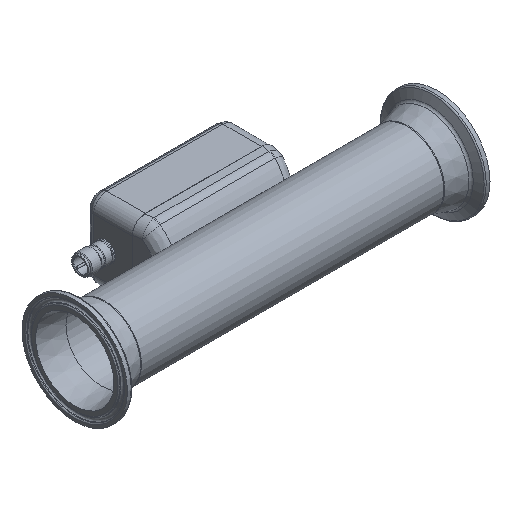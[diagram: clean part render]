
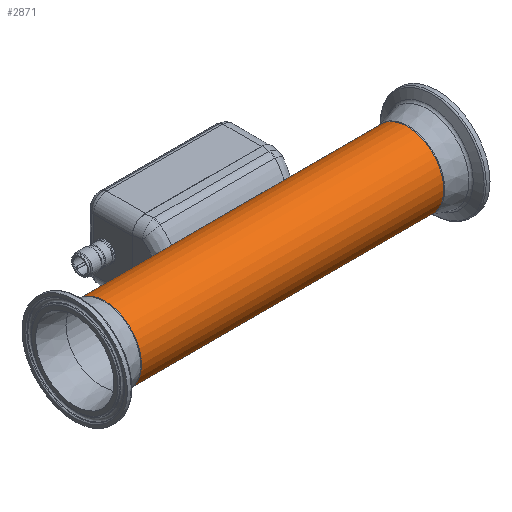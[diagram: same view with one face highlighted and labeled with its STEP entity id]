
A CAD part, isometric view. The second image highlights one B-rep face of the part: STEP entity #2871.
In plain terms, the highlighted cylindrical face has radius 22.225 mm (diameter 44.45 mm), a full revolution.
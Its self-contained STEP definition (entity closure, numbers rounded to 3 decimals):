
#87=B_SPLINE_CURVE_WITH_KNOTS('',3,(#3932,#3933,#3934,#3935,#3936,#3937,
#3938),.UNSPECIFIED.,.F.,.F.,(4,1,1,1,4),(0.,0.003,0.006,
0.009,0.012),.UNSPECIFIED.);
#89=B_SPLINE_CURVE_WITH_KNOTS('',3,(#3958,#3959,#3960,#3961,#3962,#3963,
#3964),.UNSPECIFIED.,.F.,.F.,(4,1,1,1,4),(0.,0.003,0.006,
0.009,0.012),.UNSPECIFIED.);
#91=B_SPLINE_CURVE_WITH_KNOTS('',3,(#3990,#3991,#3992,#3993,#3994,#3995,
#3996),.UNSPECIFIED.,.F.,.F.,(4,1,1,1,4),(0.,0.003,
0.006,0.009,0.012),
 .UNSPECIFIED.);
#93=B_SPLINE_CURVE_WITH_KNOTS('',3,(#4016,#4017,#4018,#4019,#4020,#4021,
#4022),.UNSPECIFIED.,.F.,.F.,(4,1,1,1,4),(0.,0.003,0.006,
0.009,0.012),.UNSPECIFIED.);
#115=ELLIPSE('',#3006,22.568,22.225);
#116=ELLIPSE('',#3008,22.568,22.225);
#130=CYLINDRICAL_SURFACE('',#3055,22.225);
#160=LINE('',#3880,#256);
#162=LINE('',#3899,#258);
#256=VECTOR('',#3255,1000.);
#258=VECTOR('',#3263,1000.);
#562=ORIENTED_EDGE('',*,*,#987,.F.);
#563=ORIENTED_EDGE('',*,*,#910,.T.);
#564=ORIENTED_EDGE('',*,*,#881,.F.);
#565=ORIENTED_EDGE('',*,*,#866,.T.);
#566=ORIENTED_EDGE('',*,*,#873,.F.);
#567=ORIENTED_EDGE('',*,*,#914,.T.);
#568=ORIENTED_EDGE('',*,*,#875,.F.);
#569=ORIENTED_EDGE('',*,*,#860,.T.);
#570=ORIENTED_EDGE('',*,*,#879,.F.);
#571=ORIENTED_EDGE('',*,*,#988,.T.);
#860=EDGE_CURVE('',#1111,#1112,#160,.F.);
#866=EDGE_CURVE('',#1117,#1118,#162,.T.);
#873=EDGE_CURVE('',#1123,#1118,#87,.T.);
#875=EDGE_CURVE('',#1111,#1125,#89,.T.);
#879=EDGE_CURVE('',#1127,#1112,#91,.T.);
#881=EDGE_CURVE('',#1117,#1129,#93,.T.);
#910=EDGE_CURVE('',#1127,#1129,#115,.F.);
#914=EDGE_CURVE('',#1123,#1125,#116,.F.);
#987=EDGE_CURVE('',#1196,#1196,#1315,.T.);
#988=EDGE_CURVE('',#1197,#1197,#1316,.T.);
#1111=VERTEX_POINT('',#3881);
#1112=VERTEX_POINT('',#3882);
#1117=VERTEX_POINT('',#3900);
#1118=VERTEX_POINT('',#3901);
#1123=VERTEX_POINT('',#3930);
#1125=VERTEX_POINT('',#3965);
#1127=VERTEX_POINT('',#3988);
#1129=VERTEX_POINT('',#4023);
#1196=VERTEX_POINT('',#4400);
#1197=VERTEX_POINT('',#4402);
#1315=CIRCLE('',#3056,22.225);
#1316=CIRCLE('',#3057,22.225);
#1448=EDGE_LOOP('',(#562));
#1449=EDGE_LOOP('',(#563,#564,#565,#566,#567,#568,#569,#570));
#1450=EDGE_LOOP('',(#571));
#1650=FACE_BOUND('',#1448,.T.);
#1651=FACE_BOUND('',#1449,.T.);
#1652=FACE_BOUND('',#1450,.T.);
#2871=ADVANCED_FACE('',(#1650,#1651,#1652),#130,.T.);
#3006=AXIS2_PLACEMENT_3D('',#4086,#3329,#3330);
#3008=AXIS2_PLACEMENT_3D('',#4091,#3336,#3337);
#3055=AXIS2_PLACEMENT_3D('',#4398,#3469,#3470);
#3056=AXIS2_PLACEMENT_3D('',#4399,#3471,#3472);
#3057=AXIS2_PLACEMENT_3D('',#4401,#3473,#3474);
#3255=DIRECTION('',(1.,0.,0.));
#3263=DIRECTION('',(1.,0.,0.));
#3329=DIRECTION('',(0.985,0.174,0.));
#3330=DIRECTION('',(0.174,-0.985,0.));
#3336=DIRECTION('',(-0.985,0.174,0.));
#3337=DIRECTION('',(0.174,0.985,0.));
#3469=DIRECTION('',(1.,0.,0.));
#3470=DIRECTION('',(0.,0.,-1.));
#3471=DIRECTION('',(1.,0.,0.));
#3472=DIRECTION('',(0.,0.,-1.));
#3473=DIRECTION('',(1.,0.,0.));
#3474=DIRECTION('',(0.,0.,-1.));
#3880=CARTESIAN_POINT('',(0.,4.995,14.19));
#3881=CARTESIAN_POINT('',(34.165,4.995,14.19));
#3882=CARTESIAN_POINT('',(-34.165,4.995,14.19));
#3899=CARTESIAN_POINT('',(0.,4.995,-14.19));
#3900=CARTESIAN_POINT('',(-34.165,4.995,-14.19));
#3901=CARTESIAN_POINT('',(34.165,4.995,-14.19));
#3930=CARTESIAN_POINT('',(41.295,8.894,-7.265));
#3932=CARTESIAN_POINT('',(41.295,8.894,-7.265));
#3933=CARTESIAN_POINT('',(41.238,8.569,-8.206));
#3934=CARTESIAN_POINT('',(40.961,7.807,-10.002));
#3935=CARTESIAN_POINT('',(39.58,6.417,-12.354));
#3936=CARTESIAN_POINT('',(37.159,5.28,-13.857));
#3937=CARTESIAN_POINT('',(35.17,4.995,-14.19));
#3938=CARTESIAN_POINT('',(34.165,4.995,-14.19));
#3958=CARTESIAN_POINT('',(34.165,4.995,14.19));
#3959=CARTESIAN_POINT('',(35.168,4.995,14.19));
#3960=CARTESIAN_POINT('',(37.147,5.277,13.86));
#3961=CARTESIAN_POINT('',(39.563,6.406,12.368));
#3962=CARTESIAN_POINT('',(40.953,7.792,10.033));
#3963=CARTESIAN_POINT('',(41.238,8.568,8.207));
#3964=CARTESIAN_POINT('',(41.295,8.894,7.265));
#3965=CARTESIAN_POINT('',(41.295,8.894,7.265));
#3988=CARTESIAN_POINT('',(-41.295,8.894,7.265));
#3990=CARTESIAN_POINT('',(-41.295,8.894,7.265));
#3991=CARTESIAN_POINT('',(-41.238,8.569,8.206));
#3992=CARTESIAN_POINT('',(-40.961,7.807,10.002));
#3993=CARTESIAN_POINT('',(-39.58,6.417,12.354));
#3994=CARTESIAN_POINT('',(-37.159,5.28,13.857));
#3995=CARTESIAN_POINT('',(-35.17,4.995,14.19));
#3996=CARTESIAN_POINT('',(-34.165,4.995,14.19));
#4016=CARTESIAN_POINT('',(-34.165,4.995,-14.19));
#4017=CARTESIAN_POINT('',(-35.168,4.995,-14.19));
#4018=CARTESIAN_POINT('',(-37.147,5.277,-13.86));
#4019=CARTESIAN_POINT('',(-39.563,6.406,-12.368));
#4020=CARTESIAN_POINT('',(-40.953,7.792,-10.033));
#4021=CARTESIAN_POINT('',(-41.238,8.568,-8.207));
#4022=CARTESIAN_POINT('',(-41.295,8.894,-7.265));
#4023=CARTESIAN_POINT('',(-41.295,8.894,-7.265));
#4086=CARTESIAN_POINT('',(-37.591,-12.11,0.));
#4091=CARTESIAN_POINT('',(37.591,-12.11,0.));
#4398=CARTESIAN_POINT('',(110.,-12.11,0.));
#4399=CARTESIAN_POINT('',(91.737,-12.11,0.));
#4400=CARTESIAN_POINT('',(91.737,-12.11,-22.225));
#4401=CARTESIAN_POINT('',(-91.737,-12.11,0.));
#4402=CARTESIAN_POINT('',(-91.737,-12.11,-22.225));
